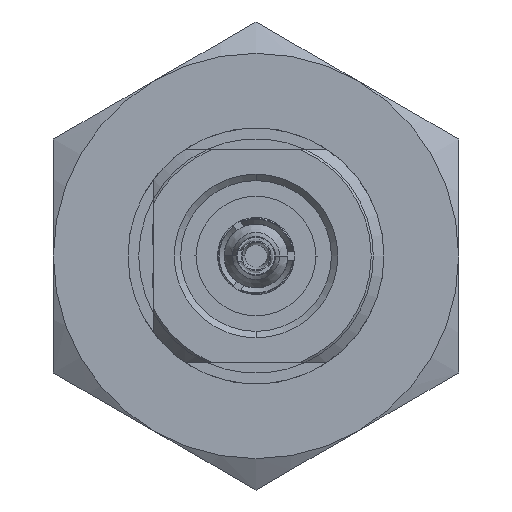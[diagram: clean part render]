
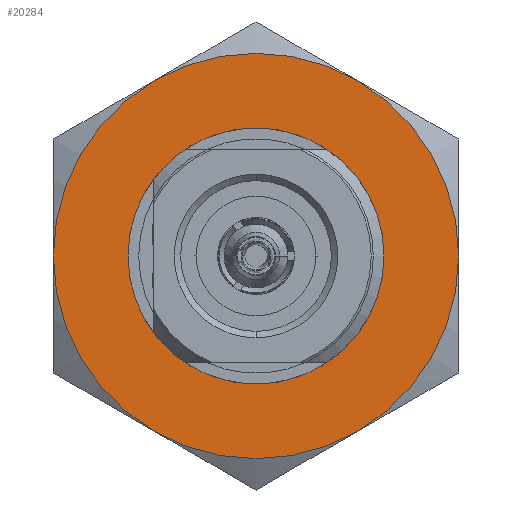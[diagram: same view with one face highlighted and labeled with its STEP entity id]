
A CAD part, left-side view. The second image highlights one B-rep face of the part: STEP entity #20284.
In plain terms, the highlighted planar face has unit normal (-1, 0, 0).
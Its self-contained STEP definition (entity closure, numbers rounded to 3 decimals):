
#19847=CARTESIAN_POINT('',(0.,0.,0.));
#19848=DIRECTION('',(1.,0.,0.));
#19849=DIRECTION('',(0.,0.,1.));
#19850=AXIS2_PLACEMENT_3D('',#19847,#19848,#19849);
#19852=CARTESIAN_POINT('',(0.,0.,0.));
#19853=DIRECTION('',(1.,0.,0.));
#19854=DIRECTION('',(0.,0.,-1.));
#19855=AXIS2_PLACEMENT_3D('',#19852,#19853,#19854);
#19857=CARTESIAN_POINT('',(0.,0.,0.));
#19858=DIRECTION('',(1.,0.,0.));
#19859=DIRECTION('',(0.,1.,0.));
#19860=AXIS2_PLACEMENT_3D('',#19857,#19858,#19859);
#19862=CARTESIAN_POINT('',(0.,0.,0.));
#19863=DIRECTION('',(1.,0.,0.));
#19864=DIRECTION('',(0.,0.5,0.866));
#19865=AXIS2_PLACEMENT_3D('',#19862,#19863,#19864);
#19867=CARTESIAN_POINT('',(0.,0.,0.));
#19868=DIRECTION('',(1.,0.,0.));
#19869=DIRECTION('',(0.,-1.,0.));
#19870=AXIS2_PLACEMENT_3D('',#19867,#19868,#19869);
#19872=CARTESIAN_POINT('',(0.,0.,0.));
#19873=DIRECTION('',(1.,0.,0.));
#19874=DIRECTION('',(0.,-0.5,-0.866));
#19875=AXIS2_PLACEMENT_3D('',#19872,#19873,#19874);
#20003=CARTESIAN_POINT('',(0.,9.5,
0.));
#20036=CARTESIAN_POINT('',(0.,0.,0.));
#20037=DIRECTION('',(-1.,0.,0.));
#20038=DIRECTION('',(0.,-1.,0.));
#20039=AXIS2_PLACEMENT_3D('',#20036,#20037,#20038);
#20041=CARTESIAN_POINT('',(0.,0.,0.));
#20042=DIRECTION('',(-1.,0.,0.));
#20043=DIRECTION('',(0.,1.,0.));
#20044=AXIS2_PLACEMENT_3D('',#20041,#20042,#20043);
#20053=CARTESIAN_POINT('',(0.,-4.75,
8.227));
#20211=CARTESIAN_POINT('',(0.,0.,5.7));
#20212=CARTESIAN_POINT('',(0.,0.,-5.7));
#20213=VERTEX_POINT('',#20211);
#20214=VERTEX_POINT('',#20212);
#20228=VERTEX_POINT('',#20003);
#20232=VERTEX_POINT('',#20053);
#20235=CARTESIAN_POINT('',(0.,4.75,8.227));
#20236=VERTEX_POINT('',#20235);
#20237=CARTESIAN_POINT('',(0.,-9.5,0.));
#20238=CARTESIAN_POINT('',(0.,-4.75,-8.227));
#20239=VERTEX_POINT('',#20237);
#20240=VERTEX_POINT('',#20238);
#20241=CARTESIAN_POINT('',(0.,4.75,-8.227));
#20242=VERTEX_POINT('',#20241);
#20259=CARTESIAN_POINT('',(0.,0.,0.));
#20260=DIRECTION('',(1.,0.,0.));
#20261=DIRECTION('',(0.,-1.,0.));
#20262=AXIS2_PLACEMENT_3D('',#20259,#20260,#20261);
#20263=PLANE('',#20262);
#20265=ORIENTED_EDGE('',*,*,#20264,.F.);
#20267=ORIENTED_EDGE('',*,*,#20266,.T.);
#20269=ORIENTED_EDGE('',*,*,#20268,.T.);
#20271=ORIENTED_EDGE('',*,*,#20270,.F.);
#20273=ORIENTED_EDGE('',*,*,#20272,.T.);
#20275=ORIENTED_EDGE('',*,*,#20274,.T.);
#20276=EDGE_LOOP('',(#20265,#20267,#20269,#20271,#20273,#20275));
#20277=FACE_OUTER_BOUND('',#20276,.F.);
#20279=ORIENTED_EDGE('',*,*,#20278,.F.);
#20281=ORIENTED_EDGE('',*,*,#20280,.F.);
#20282=EDGE_LOOP('',(#20279,#20281));
#20283=FACE_BOUND('',#20282,.F.);
#20284=ADVANCED_FACE('',(#20277,#20283),#20263,.F.);
#19851=CIRCLE('',#19850,5.7);
#19856=CIRCLE('',#19855,5.7);
#19861=CIRCLE('',#19860,9.5);
#19866=CIRCLE('',#19865,9.5);
#19871=CIRCLE('',#19870,9.5);
#19876=CIRCLE('',#19875,9.5);
#20040=CIRCLE('',#20039,9.5);
#20045=CIRCLE('',#20044,9.5);
#20264=EDGE_CURVE('',#20228,#20242,#20045,.T.);
#20266=EDGE_CURVE('',#20228,#20236,#19861,.T.);
#20268=EDGE_CURVE('',#20236,#20232,#19866,.T.);
#20270=EDGE_CURVE('',#20239,#20232,#20040,.T.);
#20272=EDGE_CURVE('',#20239,#20240,#19871,.T.);
#20274=EDGE_CURVE('',#20240,#20242,#19876,.T.);
#20278=EDGE_CURVE('',#20213,#20214,#19851,.T.);
#20280=EDGE_CURVE('',#20214,#20213,#19856,.T.);
